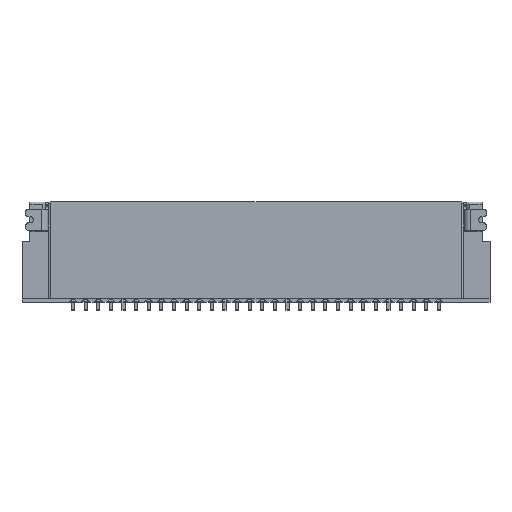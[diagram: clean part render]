
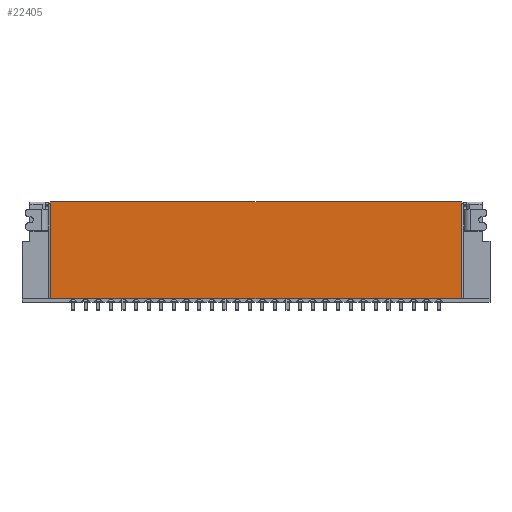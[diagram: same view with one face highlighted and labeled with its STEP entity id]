
A CAD part, top view. The second image highlights one B-rep face of the part: STEP entity #22405.
In plain terms, the highlighted planar face has unit normal (0, 0, 1).
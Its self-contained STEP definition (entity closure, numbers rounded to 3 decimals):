
#2113 = DIRECTION ( 'NONE',  ( 1., 0., 0. ) ) ;
#2302 = VECTOR ( 'NONE', #68054, 1000. ) ;
#2859 = DIRECTION ( 'NONE',  ( 0., -1., 0. ) ) ;
#4279 = FACE_OUTER_BOUND ( 'NONE', #57340, .T. ) ;
#4592 = VECTOR ( 'NONE', #2859, 1000. ) ;
#5343 = CARTESIAN_POINT ( 'NONE',  ( 12.44, 3.275, 0. ) ) ;
#9340 = VERTEX_POINT ( 'NONE', #58292 ) ;
#10459 = VECTOR ( 'NONE', #2113, 1000. ) ;
#18218 = ORIENTED_EDGE ( 'NONE', *, *, #33367, .F. ) ;
#19465 = VERTEX_POINT ( 'NONE', #22587 ) ;
#20772 = DIRECTION ( 'NONE',  ( 0., 0., 1. ) ) ;
#22404 = AXIS2_PLACEMENT_3D ( 'NONE', #5343, #20772, #47662 ) ;
#22405 = ADVANCED_FACE ( 'NONE', ( #4279 ), #25795, .T. ) ;
#22587 = CARTESIAN_POINT ( 'NONE',  ( 21.455, 0.2, 0. ) ) ;
#23622 = LINE ( 'NONE', #40471, #10459 ) ;
#25795 = PLANE ( 'NONE',  #22404 ) ;
#26007 = CARTESIAN_POINT ( 'NONE',  ( 21.455, 6.35, 0. ) ) ;
#26893 = CARTESIAN_POINT ( 'NONE',  ( -4.575, 6.35, 0. ) ) ;
#27288 = EDGE_CURVE ( 'NONE', #9340, #19465, #23622, .T. ) ;
#31053 = CARTESIAN_POINT ( 'NONE',  ( -4.575, 6.35, 0. ) ) ;
#33367 = EDGE_CURVE ( 'NONE', #53691, #53769, #33683, .T. ) ;
#33683 = LINE ( 'NONE', #26893, #61492 ) ;
#35053 = LINE ( 'NONE', #46179, #2302 ) ;
#39810 = LINE ( 'NONE', #62396, #4592 ) ;
#40471 = CARTESIAN_POINT ( 'NONE',  ( -4.575, 0.2, 0. ) ) ;
#40537 = EDGE_CURVE ( 'NONE', #53769, #19465, #35053, .T. ) ;
#43903 = ORIENTED_EDGE ( 'NONE', *, *, #27288, .T. ) ;
#46179 = CARTESIAN_POINT ( 'NONE',  ( 21.455, 6.35, 0. ) ) ;
#46749 = ORIENTED_EDGE ( 'NONE', *, *, #47192, .T. ) ;
#47192 = EDGE_CURVE ( 'NONE', #53691, #9340, #39810, .T. ) ;
#47662 = DIRECTION ( 'NONE',  ( 1., 0., 0. ) ) ;
#49129 = DIRECTION ( 'NONE',  ( 1., 0., 0. ) ) ;
#53691 = VERTEX_POINT ( 'NONE', #31053 ) ;
#53769 = VERTEX_POINT ( 'NONE', #26007 ) ;
#57340 = EDGE_LOOP ( 'NONE', ( #46749, #43903, #69232, #18218 ) ) ;
#58292 = CARTESIAN_POINT ( 'NONE',  ( -4.575, 0.2, 0. ) ) ;
#61492 = VECTOR ( 'NONE', #49129, 1000. ) ;
#62396 = CARTESIAN_POINT ( 'NONE',  ( -4.575, 6.35, 0. ) ) ;
#68054 = DIRECTION ( 'NONE',  ( 0., -1., 0. ) ) ;
#69232 = ORIENTED_EDGE ( 'NONE', *, *, #40537, .F. ) ;
